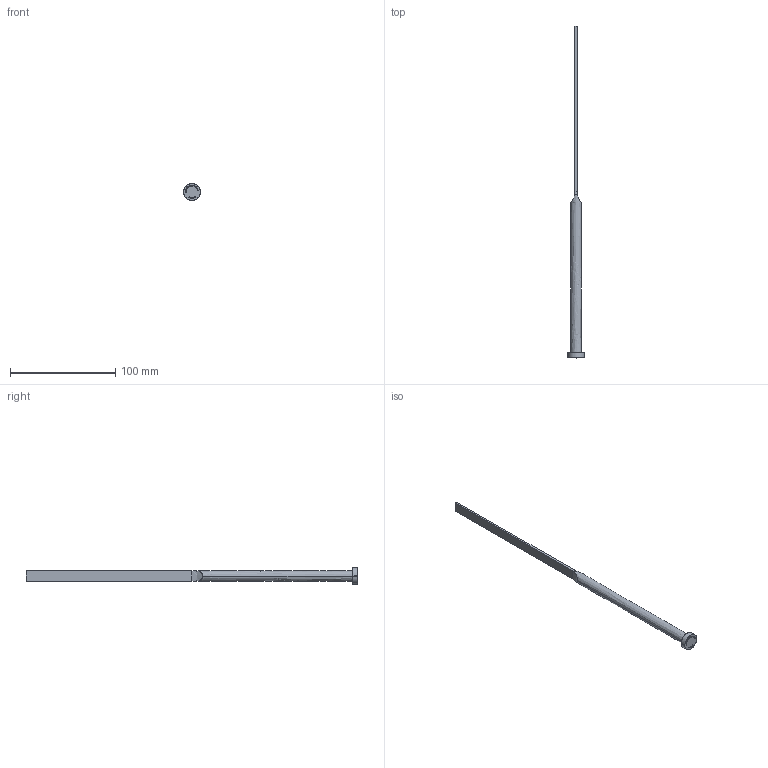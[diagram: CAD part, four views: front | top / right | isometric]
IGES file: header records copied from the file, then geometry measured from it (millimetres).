
Start section: SolidWorks IGES file using analytic representation for surfaces
Global section: file name: D:\Cleonir_particular\Matripeças\Lâmina Extratoras\LE2,009,5315.IGS; native system: SolidWorks 2013; preprocessor: SolidWorks 2013; author: Cleonir; date: 130305.144241; units: millimetre
Bounding box: 16 x 315 x 16 mm (x, y, z)
Surface area: 8987.7 mm2 (no closed solid volume)
Topology: 0 solids, 0 shells, 328 faces, 3152 edges, 3152 vertices
Faces by surface type: bspline 309, revolution 19
